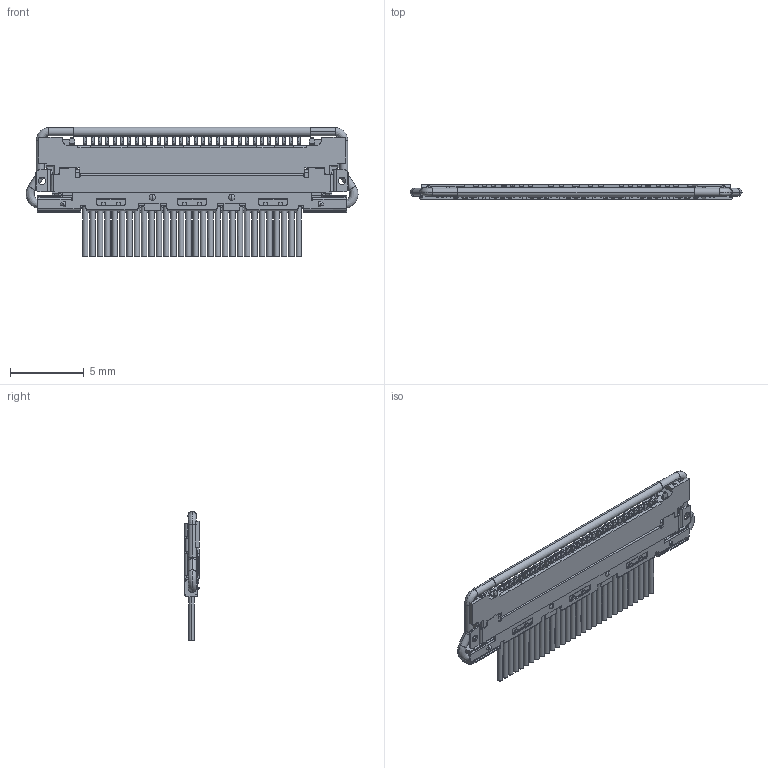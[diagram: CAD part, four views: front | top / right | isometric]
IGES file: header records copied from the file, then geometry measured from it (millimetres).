
Start section: SolidWorks IGES file using analytic representation for surfaces
Global section: file name: C:\3dwork\CAB-VS\20453-030T-x3C+20455-030E-x2C MATING IGES R8R6 ALL.IGS; native system: SolidWorks 2011; preprocessor: SolidWorks 2011; author: kaihatsu-3dcad-2; date: 120124.143542; units: millimetre
Bounding box: 22.55 x 1 x 8.79 mm (x, y, z)
Surface area: 703.6 mm2 (no closed solid volume)
Topology: 0 solids, 0 shells, 3268 faces, 23252 edges, 23244 vertices
Faces by surface type: bspline 2300, revolution 968
